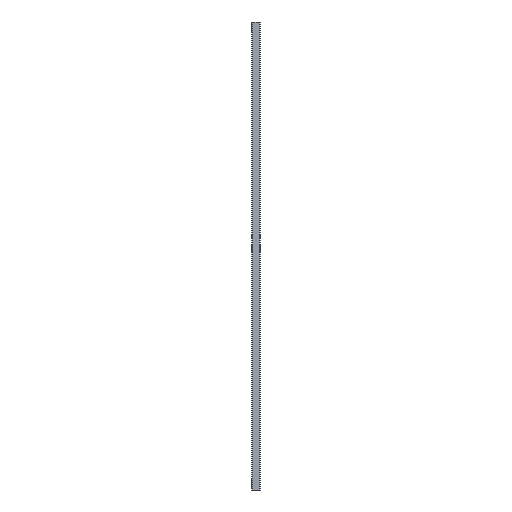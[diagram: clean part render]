
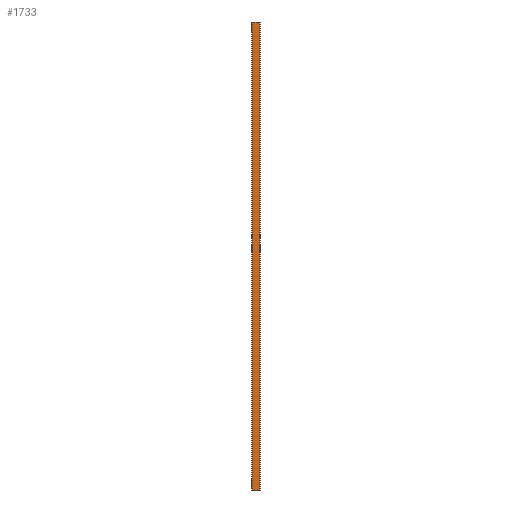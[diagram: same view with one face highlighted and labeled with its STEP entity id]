
A CAD part, left-side view. The second image highlights one B-rep face of the part: STEP entity #1733.
In plain terms, the highlighted planar face has unit normal (-1, 0, 0).
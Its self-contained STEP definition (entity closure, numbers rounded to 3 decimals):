
#14 = EDGE_CURVE ( 'NONE', #1435, #157, #322, .T. ) ;
#59 = VERTEX_POINT ( 'NONE', #167 ) ;
#88 = CARTESIAN_POINT ( 'NONE',  ( -8., 0., 679. ) ) ;
#142 = VECTOR ( 'NONE', #950, 1000. ) ;
#151 = CARTESIAN_POINT ( 'NONE',  ( -8., 12.5, 0. ) ) ;
#157 = VERTEX_POINT ( 'NONE', #151 ) ;
#167 = CARTESIAN_POINT ( 'NONE',  ( -8., 3.2, 0. ) ) ;
#198 = EDGE_CURVE ( 'NONE', #543, #839, #1038, .T. ) ;
#217 = ORIENTED_EDGE ( 'NONE', *, *, #826, .F. ) ;
#235 = DIRECTION ( 'NONE',  ( 0., 0., 1. ) ) ;
#258 = CARTESIAN_POINT ( 'NONE',  ( -8., 0., 0. ) ) ;
#265 = LINE ( 'NONE', #1503, #533 ) ;
#289 = AXIS2_PLACEMENT_3D ( 'NONE', #1457, #359, #235 ) ;
#322 = LINE ( 'NONE', #862, #1471 ) ;
#324 = DIRECTION ( 'NONE',  ( 0., 1., 0. ) ) ;
#359 = DIRECTION ( 'NONE',  ( -1., 0., 0. ) ) ;
#368 = DIRECTION ( 'NONE',  ( 0., 0., -1. ) ) ;
#370 = FACE_OUTER_BOUND ( 'NONE', #876, .T. ) ;
#440 = ORIENTED_EDGE ( 'NONE', *, *, #765, .T. ) ;
#533 = VECTOR ( 'NONE', #1359, 1000. ) ;
#543 = VERTEX_POINT ( 'NONE', #825 ) ;
#622 = CARTESIAN_POINT ( 'NONE',  ( -8., 0., 0. ) ) ;
#638 = PLANE ( 'NONE',  #289 ) ;
#648 = ORIENTED_EDGE ( 'NONE', *, *, #990, .T. ) ;
#650 = VECTOR ( 'NONE', #772, 1000. ) ;
#660 = CARTESIAN_POINT ( 'NONE',  ( -8., 9.3, 0. ) ) ;
#661 = LINE ( 'NONE', #622, #1443 ) ;
#765 = EDGE_CURVE ( 'NONE', #839, #1575, #265, .T. ) ;
#772 = DIRECTION ( 'NONE',  ( 0., 0., -1. ) ) ;
#779 = VERTEX_POINT ( 'NONE', #1749 ) ;
#781 = LINE ( 'NONE', #88, #870 ) ;
#817 = ORIENTED_EDGE ( 'NONE', *, *, #1284, .F. ) ;
#825 = CARTESIAN_POINT ( 'NONE',  ( -8., 3.2, 679. ) ) ;
#826 = EDGE_CURVE ( 'NONE', #59, #1435, #1469, .T. ) ;
#839 = VERTEX_POINT ( 'NONE', #1227 ) ;
#862 = CARTESIAN_POINT ( 'NONE',  ( -8., 0., 0. ) ) ;
#870 = VECTOR ( 'NONE', #1586, 1000. ) ;
#876 = EDGE_LOOP ( 'NONE', ( #217, #1666, #1251, #817, #1048, #440, #648, #984 ) ) ;
#892 = VECTOR ( 'NONE', #368, 1000. ) ;
#896 = DIRECTION ( 'NONE',  ( 0., -1., 0. ) ) ;
#919 = LINE ( 'NONE', #1051, #650 ) ;
#927 = VERTEX_POINT ( 'NONE', #978 ) ;
#950 = DIRECTION ( 'NONE',  ( 0., 1., 0. ) ) ;
#978 = CARTESIAN_POINT ( 'NONE',  ( -8., 0., 679. ) ) ;
#984 = ORIENTED_EDGE ( 'NONE', *, *, #14, .F. ) ;
#990 = EDGE_CURVE ( 'NONE', #1575, #157, #1440, .T. ) ;
#1038 = LINE ( 'NONE', #1136, #1249 ) ;
#1045 = DIRECTION ( 'NONE',  ( 0., 1., 0. ) ) ;
#1048 = ORIENTED_EDGE ( 'NONE', *, *, #198, .T. ) ;
#1051 = CARTESIAN_POINT ( 'NONE',  ( -8., 0., 679. ) ) ;
#1136 = CARTESIAN_POINT ( 'NONE',  ( -8., 0., 679. ) ) ;
#1227 = CARTESIAN_POINT ( 'NONE',  ( -8., 9.3, 679. ) ) ;
#1249 = VECTOR ( 'NONE', #324, 1000. ) ;
#1251 = ORIENTED_EDGE ( 'NONE', *, *, #1755, .F. ) ;
#1284 = EDGE_CURVE ( 'NONE', #543, #927, #781, .T. ) ;
#1359 = DIRECTION ( 'NONE',  ( 0., 1., 0. ) ) ;
#1435 = VERTEX_POINT ( 'NONE', #660 ) ;
#1440 = LINE ( 'NONE', #1563, #892 ) ;
#1443 = VECTOR ( 'NONE', #896, 1000. ) ;
#1457 = CARTESIAN_POINT ( 'NONE',  ( -8., 0., 679. ) ) ;
#1469 = LINE ( 'NONE', #258, #142 ) ;
#1471 = VECTOR ( 'NONE', #1045, 1000. ) ;
#1503 = CARTESIAN_POINT ( 'NONE',  ( -8., 12.5, 679. ) ) ;
#1563 = CARTESIAN_POINT ( 'NONE',  ( -8., 12.5, 679. ) ) ;
#1565 = EDGE_CURVE ( 'NONE', #59, #779, #661, .T. ) ;
#1575 = VERTEX_POINT ( 'NONE', #1629 ) ;
#1586 = DIRECTION ( 'NONE',  ( 0., -1., 0. ) ) ;
#1629 = CARTESIAN_POINT ( 'NONE',  ( -8., 12.5, 679. ) ) ;
#1666 = ORIENTED_EDGE ( 'NONE', *, *, #1565, .T. ) ;
#1733 = ADVANCED_FACE ( 'NONE', ( #370 ), #638, .T. ) ;
#1749 = CARTESIAN_POINT ( 'NONE',  ( -8., 0., 0. ) ) ;
#1755 = EDGE_CURVE ( 'NONE', #927, #779, #919, .T. ) ;
